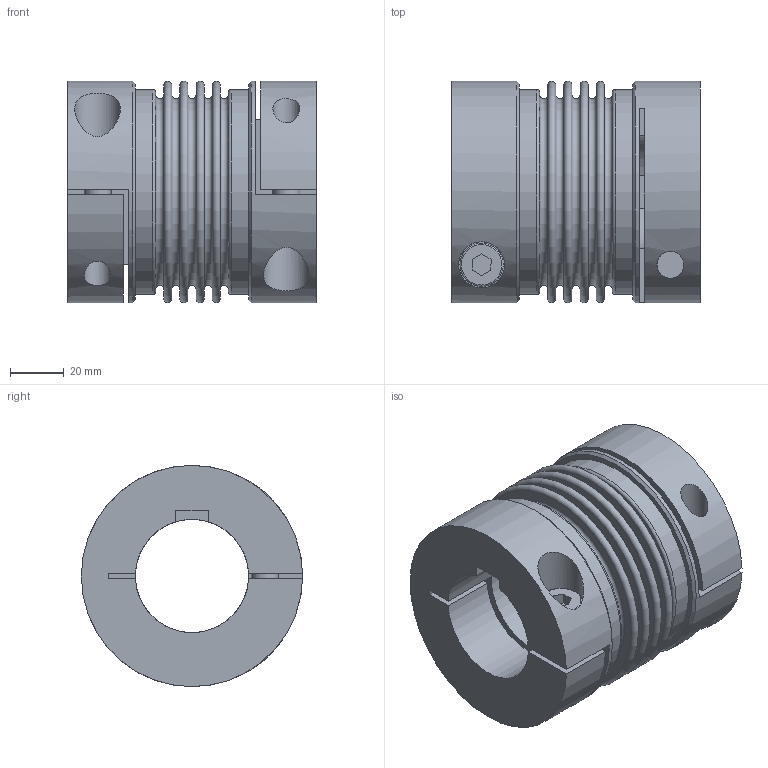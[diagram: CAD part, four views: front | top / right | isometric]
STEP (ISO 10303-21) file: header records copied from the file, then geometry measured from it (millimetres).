
FILE_DESCRIPTION(/* description */ ('STEP AP214'),/* implementation_level */ '2;1');
FILE_NAME(/* name */ 'C:\Diequa Files\DieQua Coupling\BCE\STP\BCE.150.42.#.#.stp',/* time_stamp */ '2018-11-20T09:45:18-06:00',/* author */ ('DiequaCAD'),/* organization */ (''),/* preprocessor_version */ 'ST-DEVELOPER v17.2',/* originating_system */ 'Autodesk Inventor 2019',/* authorisation */ ' ');
FILE_SCHEMA (('AUTOMOTIVE_DESIGN { 1 0 10303 214 3 1 1 }'));
Length unit declared in the file: millimetre
Products named in the file (1): BKL_150_42_PFN_42_PFN_47
Bounding box: 92 x 82 x 82 mm (x, y, z)
Volume: 254703.9 mm3; surface area: 73259.2 mm2
Topology: 1 solids, 1 shells, 88 faces, 215 edges, 149 vertices
Faces by surface type: plane 56, cylinder 17, torus 13, cone 2
Full cylindrical faces by diameter (mm): 10 x4, 16 x2, 17 x2, 64 x1, 76 x2, 82 x2
Entity records: 2851 total; most frequent: CARTESIAN_POINT 604, DIRECTION 483, ORIENTED_EDGE 430, EDGE_CURVE 215, AXIS2_PLACEMENT_3D 186, VERTEX_POINT 149, EDGE_LOOP 114, LINE 111
